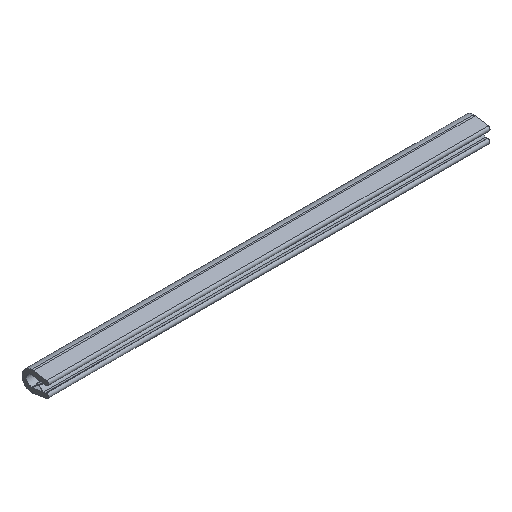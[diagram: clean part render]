
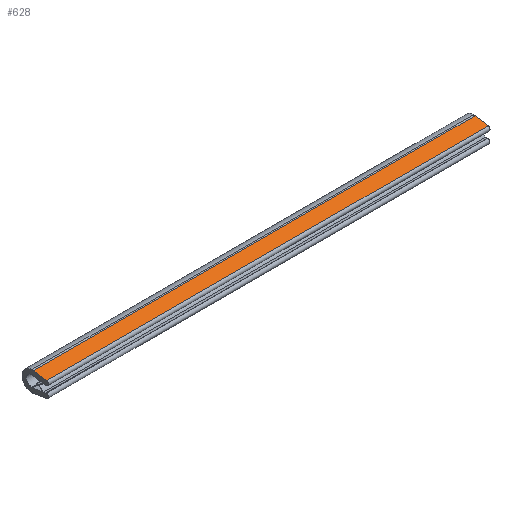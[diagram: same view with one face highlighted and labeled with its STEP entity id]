
A CAD part, isometric view. The second image highlights one B-rep face of the part: STEP entity #628.
In plain terms, the highlighted planar face has unit normal (0, -0.159, 0.987).
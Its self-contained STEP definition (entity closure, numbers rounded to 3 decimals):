
#19 = DIRECTION ( 'NONE',  ( 0., -0.987, -0.159 ) ) ;
#29 = CARTESIAN_POINT ( 'NONE',  ( 0., 0.851, 4.705 ) ) ;
#34 = VECTOR ( 'NONE', #200, 1000. ) ;
#79 = PLANE ( 'NONE',  #876 ) ;
#84 = EDGE_CURVE ( 'NONE', #507, #333, #604, .T. ) ;
#105 = CARTESIAN_POINT ( 'NONE',  ( 200., 0.851, 4.705 ) ) ;
#116 = LINE ( 'NONE', #29, #654 ) ;
#200 = DIRECTION ( 'NONE',  ( 0., -0.987, -0.159 ) ) ;
#217 = DIRECTION ( 'NONE',  ( -1., 0., 0. ) ) ;
#225 = LINE ( 'NONE', #304, #663 ) ;
#278 = EDGE_CURVE ( 'NONE', #507, #1007, #674, .T. ) ;
#304 = CARTESIAN_POINT ( 'NONE',  ( 200., -5.093, 3.75 ) ) ;
#308 = VECTOR ( 'NONE', #217, 1000. ) ;
#315 = DIRECTION ( 'NONE',  ( -1., 0., 0. ) ) ;
#333 = VERTEX_POINT ( 'NONE', #851 ) ;
#351 = ORIENTED_EDGE ( 'NONE', *, *, #278, .F. ) ;
#438 = EDGE_CURVE ( 'NONE', #1007, #791, #225, .T. ) ;
#443 = FACE_OUTER_BOUND ( 'NONE', #554, .T. ) ;
#507 = VERTEX_POINT ( 'NONE', #105 ) ;
#521 = CARTESIAN_POINT ( 'NONE',  ( 200., 0.851, 4.705 ) ) ;
#525 = EDGE_CURVE ( 'NONE', #333, #791, #116, .T. ) ;
#532 = CARTESIAN_POINT ( 'NONE',  ( 0., -5.093, 3.75 ) ) ;
#542 = CARTESIAN_POINT ( 'NONE',  ( 200., -5.093, 3.75 ) ) ;
#543 = ORIENTED_EDGE ( 'NONE', *, *, #438, .F. ) ;
#554 = EDGE_LOOP ( 'NONE', ( #843, #543, #351, #581 ) ) ;
#581 = ORIENTED_EDGE ( 'NONE', *, *, #84, .T. ) ;
#604 = LINE ( 'NONE', #925, #308 ) ;
#628 = ADVANCED_FACE ( 'NONE', ( #443 ), #79, .F. ) ;
#654 = VECTOR ( 'NONE', #19, 1000. ) ;
#663 = VECTOR ( 'NONE', #315, 1000. ) ;
#674 = LINE ( 'NONE', #521, #34 ) ;
#791 = VERTEX_POINT ( 'NONE', #532 ) ;
#843 = ORIENTED_EDGE ( 'NONE', *, *, #525, .T. ) ;
#851 = CARTESIAN_POINT ( 'NONE',  ( 0., 0.851, 4.705 ) ) ;
#875 = DIRECTION ( 'NONE',  ( 0., 0.987, 0.159 ) ) ;
#876 = AXIS2_PLACEMENT_3D ( 'NONE', #955, #948, #875 ) ;
#925 = CARTESIAN_POINT ( 'NONE',  ( 200., 0.851, 4.705 ) ) ;
#948 = DIRECTION ( 'NONE',  ( 0., 0.159, -0.987 ) ) ;
#955 = CARTESIAN_POINT ( 'NONE',  ( 200., 0.851, 4.705 ) ) ;
#1007 = VERTEX_POINT ( 'NONE', #542 ) ;
